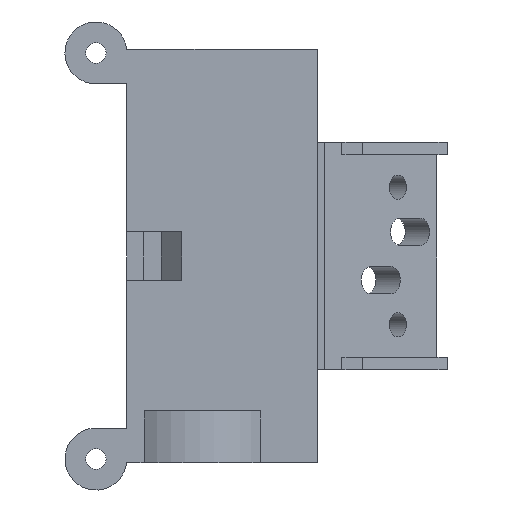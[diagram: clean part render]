
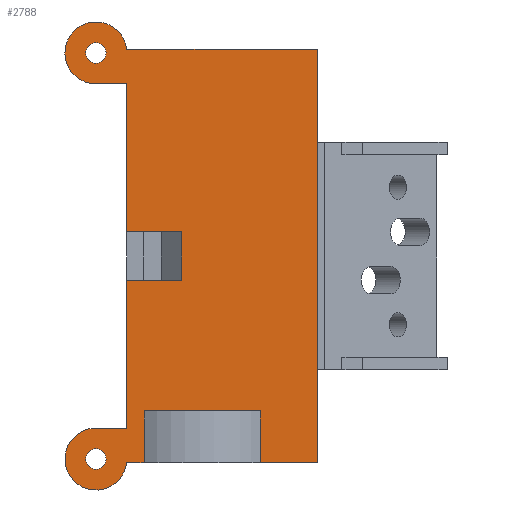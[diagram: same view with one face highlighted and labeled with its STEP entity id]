
A CAD part, left-side view. The second image highlights one B-rep face of the part: STEP entity #2788.
In plain terms, the highlighted planar face has unit normal (-1, 0, 0).
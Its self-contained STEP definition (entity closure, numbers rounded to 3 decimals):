
#34=FACE_BOUND('',#404,.T.);
#35=FACE_BOUND('',#405,.T.);
#108=PLANE('',#3006);
#244=FACE_OUTER_BOUND('',#403,.T.);
#403=EDGE_LOOP('',(#2356,#2357,#2358,#2359,#2360,#2361,#2362,#2363,#2364,
#2365,#2366,#2367,#2368,#2369,#2370,#2371));
#404=EDGE_LOOP('',(#2372));
#405=EDGE_LOOP('',(#2373));
#627=LINE('',#4270,#949);
#663=LINE('',#4367,#985);
#667=LINE('',#4375,#989);
#670=LINE('',#4386,#992);
#675=LINE('',#4400,#997);
#683=LINE('',#4413,#1005);
#684=LINE('',#4416,#1006);
#685=LINE('',#4420,#1007);
#686=LINE('',#4422,#1008);
#687=LINE('',#4424,#1009);
#688=LINE('',#4426,#1010);
#689=LINE('',#4428,#1011);
#690=LINE('',#4430,#1012);
#691=LINE('',#4432,#1013);
#949=VECTOR('',#3465,10.);
#985=VECTOR('',#3563,10.);
#989=VECTOR('',#3569,10.);
#992=VECTOR('',#3580,10.);
#997=VECTOR('',#3595,10.);
#1005=VECTOR('',#3603,10.);
#1006=VECTOR('',#3606,10.);
#1007=VECTOR('',#3609,10.);
#1008=VECTOR('',#3610,10.);
#1009=VECTOR('',#3611,10.);
#1010=VECTOR('',#3612,10.);
#1011=VECTOR('',#3613,10.);
#1012=VECTOR('',#3614,10.);
#1013=VECTOR('',#3615,10.);
#1167=CIRCLE('',#3007,4.5);
#1168=CIRCLE('',#3008,4.5);
#1169=CIRCLE('',#3009,1.49);
#1170=CIRCLE('',#3010,1.49);
#1325=VERTEX_POINT('',#4267);
#1326=VERTEX_POINT('',#4269);
#1355=VERTEX_POINT('',#4365);
#1356=VERTEX_POINT('',#4366);
#1359=VERTEX_POINT('',#4374);
#1363=VERTEX_POINT('',#4385);
#1367=VERTEX_POINT('',#4399);
#1373=VERTEX_POINT('',#4415);
#1374=VERTEX_POINT('',#4417);
#1375=VERTEX_POINT('',#4419);
#1376=VERTEX_POINT('',#4421);
#1377=VERTEX_POINT('',#4423);
#1378=VERTEX_POINT('',#4425);
#1379=VERTEX_POINT('',#4427);
#1380=VERTEX_POINT('',#4429);
#1381=VERTEX_POINT('',#4431);
#1382=VERTEX_POINT('',#4434);
#1383=VERTEX_POINT('',#4436);
#1651=EDGE_CURVE('',#1325,#1326,#627,.T.);
#1699=EDGE_CURVE('',#1355,#1356,#663,.T.);
#1703=EDGE_CURVE('',#1356,#1359,#667,.T.);
#1708=EDGE_CURVE('',#1359,#1363,#670,.T.);
#1715=EDGE_CURVE('',#1355,#1367,#675,.T.);
#1723=EDGE_CURVE('',#1326,#1363,#683,.T.);
#1724=EDGE_CURVE('',#1373,#1325,#684,.T.);
#1725=EDGE_CURVE('',#1374,#1373,#1167,.T.);
#1726=EDGE_CURVE('',#1374,#1375,#685,.T.);
#1727=EDGE_CURVE('',#1376,#1375,#686,.T.);
#1728=EDGE_CURVE('',#1376,#1377,#687,.T.);
#1729=EDGE_CURVE('',#1377,#1378,#688,.T.);
#1730=EDGE_CURVE('',#1378,#1379,#689,.T.);
#1731=EDGE_CURVE('',#1380,#1379,#690,.T.);
#1732=EDGE_CURVE('',#1381,#1380,#691,.T.);
#1733=EDGE_CURVE('',#1367,#1381,#1168,.T.);
#1734=EDGE_CURVE('',#1382,#1382,#1169,.T.);
#1735=EDGE_CURVE('',#1383,#1383,#1170,.T.);
#2356=ORIENTED_EDGE('',*,*,#1699,.T.);
#2357=ORIENTED_EDGE('',*,*,#1703,.T.);
#2358=ORIENTED_EDGE('',*,*,#1708,.T.);
#2359=ORIENTED_EDGE('',*,*,#1723,.F.);
#2360=ORIENTED_EDGE('',*,*,#1651,.F.);
#2361=ORIENTED_EDGE('',*,*,#1724,.F.);
#2362=ORIENTED_EDGE('',*,*,#1725,.F.);
#2363=ORIENTED_EDGE('',*,*,#1726,.T.);
#2364=ORIENTED_EDGE('',*,*,#1727,.F.);
#2365=ORIENTED_EDGE('',*,*,#1728,.T.);
#2366=ORIENTED_EDGE('',*,*,#1729,.T.);
#2367=ORIENTED_EDGE('',*,*,#1730,.T.);
#2368=ORIENTED_EDGE('',*,*,#1731,.F.);
#2369=ORIENTED_EDGE('',*,*,#1732,.F.);
#2370=ORIENTED_EDGE('',*,*,#1733,.F.);
#2371=ORIENTED_EDGE('',*,*,#1715,.F.);
#2372=ORIENTED_EDGE('',*,*,#1734,.F.);
#2373=ORIENTED_EDGE('',*,*,#1735,.F.);
#2788=ADVANCED_FACE('',(#244,#34,#35),#108,.F.);
#3006=AXIS2_PLACEMENT_3D('',#4414,#3604,#3605);
#3007=AXIS2_PLACEMENT_3D('',#4418,#3607,#3608);
#3008=AXIS2_PLACEMENT_3D('',#4433,#3616,#3617);
#3009=AXIS2_PLACEMENT_3D('',#4435,#3618,#3619);
#3010=AXIS2_PLACEMENT_3D('',#4437,#3620,#3621);
#3465=DIRECTION('',(0.,0.,-1.));
#3563=DIRECTION('',(0.,0.,1.));
#3569=DIRECTION('',(0.,-1.,0.));
#3580=DIRECTION('',(0.,0.,-1.));
#3595=DIRECTION('',(0.,1.,0.));
#3603=DIRECTION('',(0.,1.,0.));
#3604=DIRECTION('center_axis',(1.,0.,0.));
#3605=DIRECTION('ref_axis',(0.,1.,0.));
#3606=DIRECTION('',(0.,-1.,0.));
#3607=DIRECTION('center_axis',(1.,0.,0.));
#3608=DIRECTION('ref_axis',(0.,-0.002,-1.));
#3609=DIRECTION('',(0.,-1.,0.));
#3610=DIRECTION('',(0.,0.,1.));
#3611=DIRECTION('',(0.,-1.,0.));
#3612=DIRECTION('',(0.,0.,-1.));
#3613=DIRECTION('',(0.,1.,0.));
#3614=DIRECTION('',(0.,0.,1.));
#3615=DIRECTION('',(0.,-1.,0.));
#3616=DIRECTION('center_axis',(1.,0.,0.));
#3617=DIRECTION('ref_axis',(0.,-0.994,-0.111));
#3618=DIRECTION('center_axis',(-1.,0.,0.));
#3619=DIRECTION('ref_axis',(0.,1.,0.));
#3620=DIRECTION('center_axis',(-1.,0.,0.));
#3621=DIRECTION('ref_axis',(0.,1.,0.));
#4267=CARTESIAN_POINT('',(0.,-0.129,30.137));
#4269=CARTESIAN_POINT('',(0.,-0.129,-29.863));
#4270=CARTESIAN_POINT('',(0.,-0.129,30.137));
#4365=CARTESIAN_POINT('',(0.,25.071,-29.863));
#4366=CARTESIAN_POINT('',(0.,25.071,-22.363));
#4367=CARTESIAN_POINT('',(0.,25.071,-14.863));
#4374=CARTESIAN_POINT('',(0.,8.188,-22.363));
#4375=CARTESIAN_POINT('',(0.,16.846,-22.363));
#4385=CARTESIAN_POINT('',(0.,8.188,-29.863));
#4386=CARTESIAN_POINT('',(0.,8.188,-29.863));
#4399=CARTESIAN_POINT('',(0.,27.599,-29.863));
#4400=CARTESIAN_POINT('',(0.,-0.129,-29.863));
#4413=CARTESIAN_POINT('',(0.,-0.129,-29.863));
#4414=CARTESIAN_POINT('Origin',(0.,18.221,0.137));
#4415=CARTESIAN_POINT('',(0.,27.599,30.137));
#4416=CARTESIAN_POINT('',(0.,27.571,30.137));
#4417=CARTESIAN_POINT('',(0.,32.08,25.137));
#4418=CARTESIAN_POINT('Origin',(0.,32.071,29.637));
#4419=CARTESIAN_POINT('',(0.,27.571,25.137));
#4420=CARTESIAN_POINT('',(0.,32.08,25.137));
#4421=CARTESIAN_POINT('',(0.,27.571,3.637));
#4422=CARTESIAN_POINT('',(0.,27.571,-24.881));
#4423=CARTESIAN_POINT('',(0.,19.571,3.637));
#4424=CARTESIAN_POINT('',(0.,27.571,3.637));
#4425=CARTESIAN_POINT('',(0.,19.571,-3.363));
#4426=CARTESIAN_POINT('',(0.,19.571,3.637));
#4427=CARTESIAN_POINT('',(0.,27.571,-3.363));
#4428=CARTESIAN_POINT('',(0.,19.571,-3.363));
#4429=CARTESIAN_POINT('',(0.,27.571,-24.881));
#4430=CARTESIAN_POINT('',(0.,27.571,-24.881));
#4431=CARTESIAN_POINT('',(0.,32.472,-24.881));
#4432=CARTESIAN_POINT('',(0.,32.472,-24.881));
#4433=CARTESIAN_POINT('Origin',(0.,32.071,-29.363));
#4434=CARTESIAN_POINT('',(0.,30.581,-29.363));
#4435=CARTESIAN_POINT('Origin',(0.,32.071,-29.363));
#4436=CARTESIAN_POINT('',(0.,30.581,29.637));
#4437=CARTESIAN_POINT('Origin',(0.,32.071,29.637));
